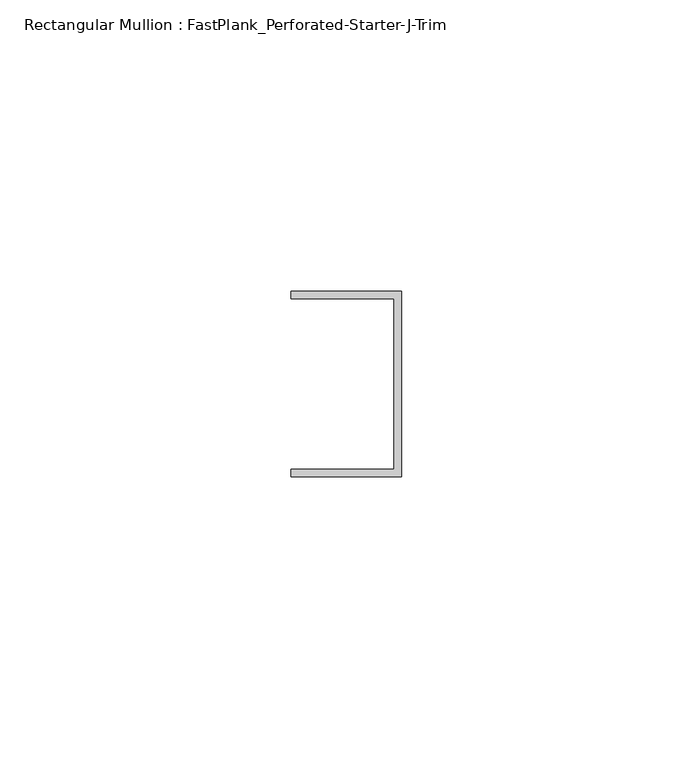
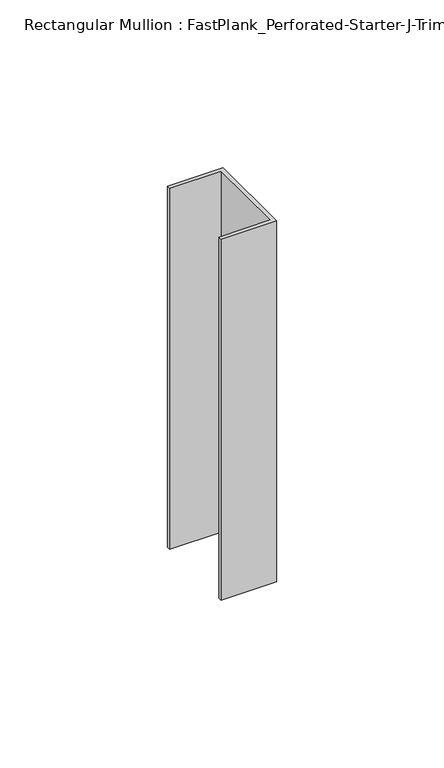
"""IFC4 building model written with IfcOpenShell, lengths in millimetres: member geometry, Rectangular Mullion : FastPlank_Perforated-Starter-J-Trim."""

from ifc_helpers import new_model, si_unit, frame, origin, place, context, project, spatial, polyline, outline, extrude, source, transform, mapped, element, save


def rectangular_mullion_fastplank_perforated_starter_j_trim_cc9b52f4(model_context):
    return source(origin(), model_context, "Body", "SweptSolid", [
        extrude(outline(polyline([(0.0, 10.2620691), (0.0, -21.6412691), (-19.05, -21.6412691), (-19.05, -20.3412717), (-1.3000189, -20.3412717), (-1.3000189, 8.9620717), (-19.05, 8.9620717), (-19.05, 10.2620691), (0.0, 10.2620691)])), frame((0.0, 0.0, -131.4383884), z_axis=(0.0, 0.0, 1.0), x_axis=(1.0, 0.0, 0.0)), (0.0, 0.0, 1.0), 131.4383884),
    ])


if __name__ == "__main__":
    model = new_model("IFC4")
    model_context = context("Model", 3, world=origin())
    ifc_project = project(units=[si_unit("LENGTHUNIT", "METRE", prefix="MILLI")], contexts=[model_context])
    site = spatial("IfcSite", under=ifc_project)
    building = spatial("IfcBuilding", under=site)
    placement = place(None, origin())
    rectangular_mullion_fastplank_perforated_starter_j_trim_shape = rectangular_mullion_fastplank_perforated_starter_j_trim_cc9b52f4(model_context)
    element("IfcMember", 1, ObjectType="Rectangular Mullion : FastPlank_Perforated-Starter-J-Trim", at=placement, inside=building, context=model_context, shape_type="MappedRepresentation", body=[
        mapped(rectangular_mullion_fastplank_perforated_starter_j_trim_shape, transform((0.0, 0.0, 0.0), x_axis=(1.0, 0.0, 0.0), y_axis=(0.0, 1.0, 0.0), z_axis=(0.0, 0.0, 1.0))),
    ])
    save(model, "model.ifc")
